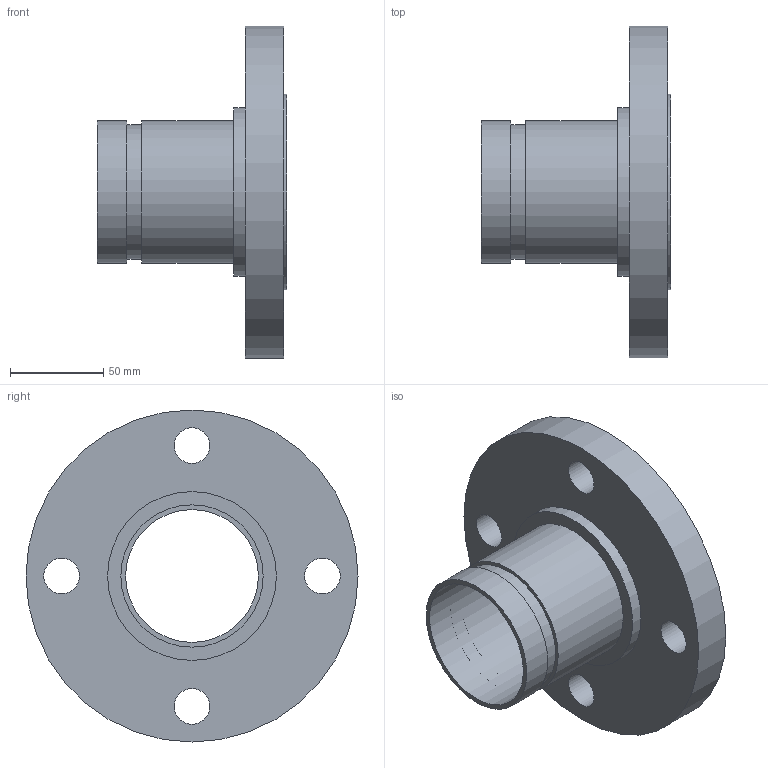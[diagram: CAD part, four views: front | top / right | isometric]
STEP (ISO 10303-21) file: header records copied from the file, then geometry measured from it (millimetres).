
FILE_DESCRIPTION(/* description */ ('VIC No 445R FLANGE ADAPTER NIPPE (ANSI)','CAx-IF Rec.Pracs.---Representation and Presentation of Product Manufacturing Information (PMI)---4.0---2014-10-13'),/* implementation_level */ '2;1');
FILE_NAME(/* name */ 'C:\Users\kkamble\AppData\Roaming\Autodesk\ApplicationPlugins\Back Up\Victaulic_SS-OGS_Flanged Adapter Nipple_CL 150 RF_Style 445R (OGSxFLG)\Victaulic_SS-OGS_Flanged Adapter Nipple_CL 150 RF_Style 445R (OGSxFLG)_2.5 (76.1) (65).stp',/* time_stamp */ '2020-08-27T09:31:02+05:00',/* author */ ('jbrannon'),/* organization */ ('Victaulic'),/* preprocessor_version */ 'ST-DEVELOPER v17.2',/* originating_system */ 'Autodesk Inventor 2019',/* authorisation */ '');
FILE_SCHEMA (('AP242_MANAGED_MODEL_BASED_3D_ENGINEERING_MIM_LF { 1 0 10303 442 1 1 4 }'));
Length unit declared in the file: inch
Products named in the file (1): 445R-02.5 (76.1)
Bounding box: 101.6 x 177.8 x 177.8 mm (x, y, z)
Volume: 467847.3 mm3; surface area: 99192 mm2
Topology: 1 solids, 1 shells, 18 faces, 47 edges, 36 vertices
Faces by surface type: cylinder 11, plane 7
Full cylindrical faces by diameter (mm): 19.05 x4, 71.12 x1, 72.263 x1, 76.2 x2, 90.424 x1, 104.648 x1, 177.8 x1
Entity records: 769 total; most frequent: DIRECTION 147, CARTESIAN_POINT 119, ORIENTED_EDGE 94, AXIS2_PLACEMENT_3D 68, EDGE_CURVE 47, CIRCLE 36, VERTEX_POINT 36, EDGE_LOOP 33
